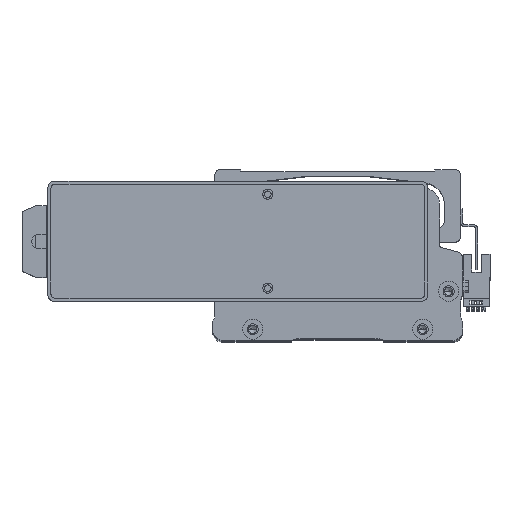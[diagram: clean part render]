
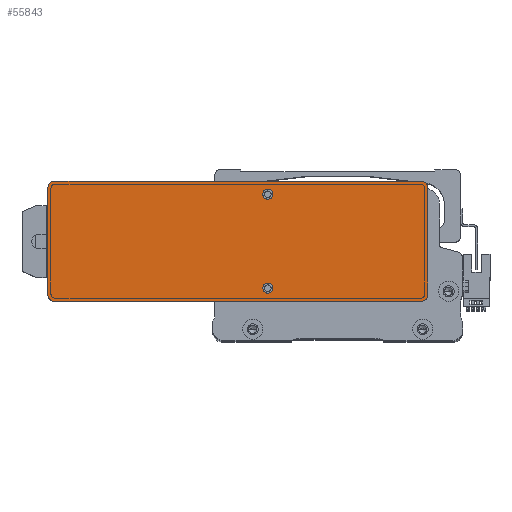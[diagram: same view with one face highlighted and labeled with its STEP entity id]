
A CAD part, top view. The second image highlights one B-rep face of the part: STEP entity #55843.
In plain terms, the highlighted planar face has unit normal (0, 0, 1) as drawn and (0, 0, -1) by its records, which use the part's own axes.
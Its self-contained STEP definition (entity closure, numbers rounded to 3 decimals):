
#224 = AXIS2_PLACEMENT_3D ( 'NONE', #68723, #9070, #50904 ) ;
#1769 = CARTESIAN_POINT ( 'NONE',  ( -95., -27., 0. ) ) ;
#2825 = PLANE ( 'NONE',  #224 ) ;
#2880 = CARTESIAN_POINT ( 'NONE',  ( -95., -30., 0. ) ) ;
#3321 = AXIS2_PLACEMENT_3D ( 'NONE', #18323, #60156, #24315 ) ;
#4099 = LINE ( 'NONE', #70012, #65847 ) ;
#4423 = DIRECTION ( 'NONE',  ( 1., 0., 0. ) ) ;
#5371 = EDGE_CURVE ( 'NONE', #53525, #27557, #35961, .T. ) ;
#6044 = CARTESIAN_POINT ( 'NONE',  ( -17.5, 23.5, 0. ) ) ;
#6545 = ORIENTED_EDGE ( 'NONE', *, *, #44396, .F. ) ;
#8231 = CIRCLE ( 'NONE', #35222, 2.5 ) ;
#8446 = VERTEX_POINT ( 'NONE', #61186 ) ;
#8970 = CIRCLE ( 'NONE', #62570, 2.5 ) ;
#9070 = DIRECTION ( 'NONE',  ( 0., 0., 1. ) ) ;
#9370 = LINE ( 'NONE', #2880, #25290 ) ;
#10429 = DIRECTION ( 'NONE',  ( 0., 1., 0. ) ) ;
#10787 = ORIENTED_EDGE ( 'NONE', *, *, #62764, .T. ) ;
#11108 = DIRECTION ( 'NONE',  ( 0., 0., -1. ) ) ;
#12028 = AXIS2_PLACEMENT_3D ( 'NONE', #59366, #23544, #65381 ) ;
#13322 = EDGE_CURVE ( 'NONE', #27557, #53525, #68906, .T. ) ;
#14697 = LINE ( 'NONE', #73254, #42764 ) ;
#14862 = FACE_BOUND ( 'NONE', #61114, .T. ) ;
#15404 = EDGE_CURVE ( 'NONE', #54324, #8446, #64813, .T. ) ;
#15968 = CARTESIAN_POINT ( 'NONE',  ( -12.5, 23.5, 0. ) ) ;
#16758 = FACE_OUTER_BOUND ( 'NONE', #42526, .T. ) ;
#16822 = ORIENTED_EDGE ( 'NONE', *, *, #60424, .F. ) ;
#17330 = DIRECTION ( 'NONE',  ( 0., 0., -1. ) ) ;
#18317 = VERTEX_POINT ( 'NONE', #1769 ) ;
#18323 = CARTESIAN_POINT ( 'NONE',  ( -15., -23.5, 0. ) ) ;
#18571 = EDGE_CURVE ( 'NONE', #35766, #8446, #63891, .T. ) ;
#20033 = CIRCLE ( 'NONE', #12028, 3. ) ;
#20554 = ORIENTED_EDGE ( 'NONE', *, *, #47178, .T. ) ;
#21674 = DIRECTION ( 'NONE',  ( 0., 0., -1. ) ) ;
#22179 = EDGE_CURVE ( 'NONE', #72028, #54412, #8970, .T. ) ;
#22213 = DIRECTION ( 'NONE',  ( 0., 0., -1. ) ) ;
#23544 = DIRECTION ( 'NONE',  ( 0., 0., -1. ) ) ;
#24247 = DIRECTION ( 'NONE',  ( 0., 0., -1. ) ) ;
#24315 = DIRECTION ( 'NONE',  ( -1., 0., 0. ) ) ;
#25290 = VECTOR ( 'NONE', #38671, 1000. ) ;
#25553 = DIRECTION ( 'NONE',  ( 0., 0., -1. ) ) ;
#27557 = VERTEX_POINT ( 'NONE', #64068 ) ;
#27793 = CARTESIAN_POINT ( 'NONE',  ( -17.5, -23.5, 0. ) ) ;
#28216 = CARTESIAN_POINT ( 'NONE',  ( 95., -30., 0. ) ) ;
#28749 = CIRCLE ( 'NONE', #64277, 3. ) ;
#28892 = EDGE_CURVE ( 'NONE', #35766, #32742, #14697, .T. ) ;
#29187 = CARTESIAN_POINT ( 'NONE',  ( -92., 30., 0. ) ) ;
#32742 = VERTEX_POINT ( 'NONE', #29187 ) ;
#33278 = ORIENTED_EDGE ( 'NONE', *, *, #13322, .F. ) ;
#34830 = CARTESIAN_POINT ( 'NONE',  ( -95., 27., 0. ) ) ;
#35222 = AXIS2_PLACEMENT_3D ( 'NONE', #53143, #17330, #59154 ) ;
#35766 = VERTEX_POINT ( 'NONE', #60558 ) ;
#35961 = CIRCLE ( 'NONE', #3321, 2.5 ) ;
#37462 = DIRECTION ( 'NONE',  ( -1., 0., 0. ) ) ;
#38320 = AXIS2_PLACEMENT_3D ( 'NONE', #46881, #11108, #52974 ) ;
#38671 = DIRECTION ( 'NONE',  ( 0., -1., 0. ) ) ;
#42526 = EDGE_LOOP ( 'NONE', ( #70297, #74499, #16822, #10787, #6545, #20554, #72831, #43576 ) ) ;
#42764 = VECTOR ( 'NONE', #37462, 1000. ) ;
#43576 = ORIENTED_EDGE ( 'NONE', *, *, #18571, .T. ) ;
#44396 = EDGE_CURVE ( 'NONE', #73663, #18317, #9370, .T. ) ;
#44776 = FACE_BOUND ( 'NONE', #75719, .T. ) ;
#46881 = CARTESIAN_POINT ( 'NONE',  ( 92., 27., 0. ) ) ;
#46997 = AXIS2_PLACEMENT_3D ( 'NONE', #61367, #25553, #67396 ) ;
#47178 = EDGE_CURVE ( 'NONE', #73663, #32742, #20033, .T. ) ;
#47264 = CARTESIAN_POINT ( 'NONE',  ( 95., -27., 0. ) ) ;
#48618 = CARTESIAN_POINT ( 'NONE',  ( -92., -30., 0. ) ) ;
#48806 = VERTEX_POINT ( 'NONE', #51492 ) ;
#48839 = VECTOR ( 'NONE', #10429, 1000. ) ;
#50904 = DIRECTION ( 'NONE',  ( 1., 0., 0. ) ) ;
#51492 = CARTESIAN_POINT ( 'NONE',  ( 92., -30., 0. ) ) ;
#52974 = DIRECTION ( 'NONE',  ( 1., 0., 0. ) ) ;
#53143 = CARTESIAN_POINT ( 'NONE',  ( -15., 23.5, 0. ) ) ;
#53525 = VERTEX_POINT ( 'NONE', #27793 ) ;
#53602 = ORIENTED_EDGE ( 'NONE', *, *, #5371, .F. ) ;
#54324 = VERTEX_POINT ( 'NONE', #47264 ) ;
#54412 = VERTEX_POINT ( 'NONE', #6044 ) ;
#55166 = VERTEX_POINT ( 'NONE', #48618 ) ;
#55843 = ADVANCED_FACE ( 'NONE', ( #44776, #16758, #14862 ), #2825, .F. ) ;
#57480 = CARTESIAN_POINT ( 'NONE',  ( -15., 23.5, 0. ) ) ;
#58005 = CARTESIAN_POINT ( 'NONE',  ( -92., -27., 0. ) ) ;
#59154 = DIRECTION ( 'NONE',  ( -1., 0., 0. ) ) ;
#59366 = CARTESIAN_POINT ( 'NONE',  ( -92., 27., 0. ) ) ;
#60095 = CARTESIAN_POINT ( 'NONE',  ( -15., -23.5, 0. ) ) ;
#60156 = DIRECTION ( 'NONE',  ( 0., 0., -1. ) ) ;
#60424 = EDGE_CURVE ( 'NONE', #55166, #48806, #4099, .T. ) ;
#60558 = CARTESIAN_POINT ( 'NONE',  ( 92., 30., 0. ) ) ;
#61114 = EDGE_LOOP ( 'NONE', ( #53602, #33278 ) ) ;
#61186 = CARTESIAN_POINT ( 'NONE',  ( 95., 27., 0. ) ) ;
#61367 = CARTESIAN_POINT ( 'NONE',  ( 92., -27., 0. ) ) ;
#62286 = EDGE_CURVE ( 'NONE', #54412, #72028, #8231, .T. ) ;
#62311 = ORIENTED_EDGE ( 'NONE', *, *, #22179, .F. ) ;
#62570 = AXIS2_PLACEMENT_3D ( 'NONE', #57480, #21674, #63492 ) ;
#62764 = EDGE_CURVE ( 'NONE', #55166, #18317, #28749, .T. ) ;
#63492 = DIRECTION ( 'NONE',  ( -1., 0., 0. ) ) ;
#63891 = CIRCLE ( 'NONE', #38320, 3. ) ;
#64045 = DIRECTION ( 'NONE',  ( 1., 0., 0. ) ) ;
#64068 = CARTESIAN_POINT ( 'NONE',  ( -12.5, -23.5, 0. ) ) ;
#64277 = AXIS2_PLACEMENT_3D ( 'NONE', #58005, #22213, #64045 ) ;
#64813 = LINE ( 'NONE', #28216, #48839 ) ;
#65381 = DIRECTION ( 'NONE',  ( 1., 0., 0. ) ) ;
#65847 = VECTOR ( 'NONE', #4423, 1000. ) ;
#66129 = DIRECTION ( 'NONE',  ( -1., 0., 0. ) ) ;
#66568 = AXIS2_PLACEMENT_3D ( 'NONE', #60095, #24247, #66129 ) ;
#66600 = ORIENTED_EDGE ( 'NONE', *, *, #62286, .F. ) ;
#67396 = DIRECTION ( 'NONE',  ( 1., 0., 0. ) ) ;
#68723 = CARTESIAN_POINT ( 'NONE',  ( 0., 0., 0. ) ) ;
#68906 = CIRCLE ( 'NONE', #66568, 2.5 ) ;
#70012 = CARTESIAN_POINT ( 'NONE',  ( 95., -30., 0. ) ) ;
#70297 = ORIENTED_EDGE ( 'NONE', *, *, #15404, .F. ) ;
#70735 = EDGE_CURVE ( 'NONE', #54324, #48806, #75151, .T. ) ;
#72028 = VERTEX_POINT ( 'NONE', #15968 ) ;
#72831 = ORIENTED_EDGE ( 'NONE', *, *, #28892, .F. ) ;
#73254 = CARTESIAN_POINT ( 'NONE',  ( 95., 30., 0. ) ) ;
#73663 = VERTEX_POINT ( 'NONE', #34830 ) ;
#74499 = ORIENTED_EDGE ( 'NONE', *, *, #70735, .T. ) ;
#75151 = CIRCLE ( 'NONE', #46997, 3. ) ;
#75719 = EDGE_LOOP ( 'NONE', ( #66600, #62311 ) ) ;
